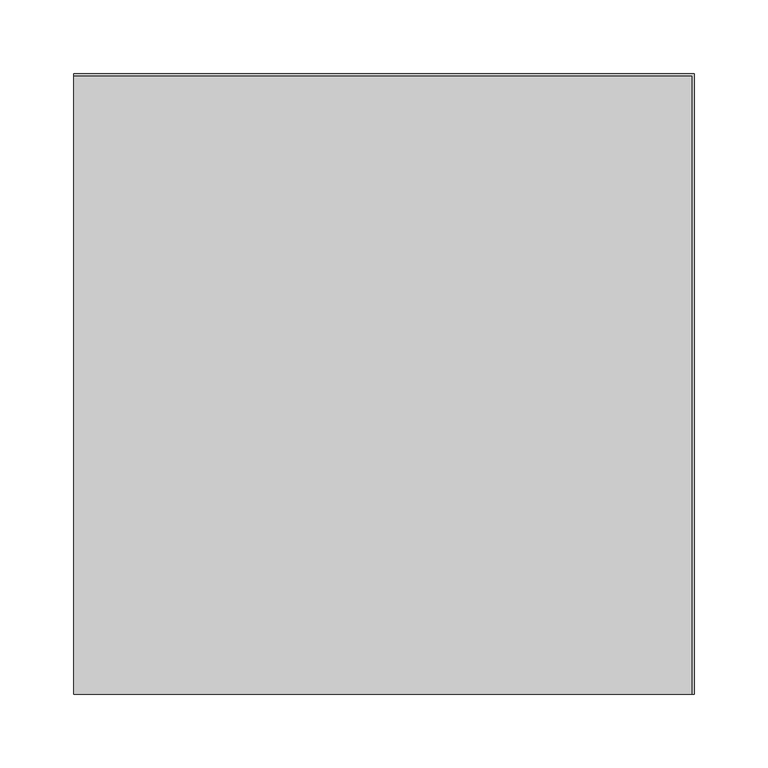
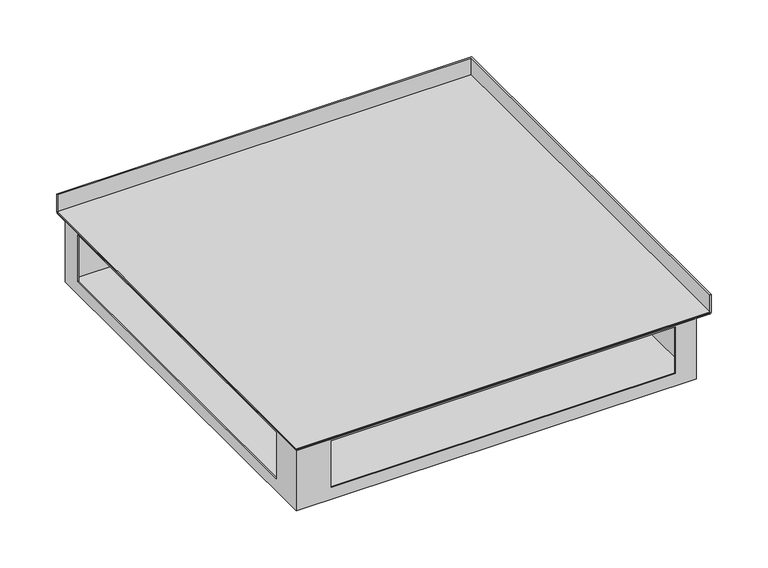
"""IFC4 building model written with IfcOpenShell, lengths in millimetres: proxy geometry, TECHNO_Угловой элемент_KVU : 420_085_90°."""

from ifc_helpers import new_model, si_unit, frame, origin, place, context, project, spatial, polyline, circle_curve, ellipse_curve, outline, extrude, source, transform, mapped, element, save
from ifc_brep_helpers import plane_surface, cylinder_surface, advanced_brep


def mechanical_equipment_69cd810f(model_context):
    return source(origin(), model_context, "Body", "SolidModel", [
        extrude(outline(polyline([(0.0, 208.8), (418.8, 208.8), (418.8, -210.0), (0.0, -210.0), (0.0, 208.8)])), frame((0.0, 0.0, -19.3), z_axis=(0.0, 0.0, 1.0), x_axis=(1.0, 0.0, 0.0)), (0.0, 0.0, 1.0), 1.2),
        advanced_brep(
        [(1.2, 194.0, -83.8), (1.2, -208.8, -83.8), (404.0, -208.8, -83.8), (404.0, 194.0, -83.8), (0.0, 195.2, -85.0), (405.2, 195.2, -85.0), (405.2, -210.0, -85.0), (0.0, -210.0, -85.0), (0.0, 195.2, -20.5), (0.0, -210.0, -20.5), (0.0, 194.0, -20.5), (0.0, 195.2, -19.3), (0.0, 208.8, -19.3), (0.0, 208.8, 0.0), (0.0, 210.0, 0.0), (0.0, 210.0, -19.3), (0.0, 208.8, -20.5), (0.0, -174.5, -22.0), (0.0, -174.5, -72.0), (0.0, 173.9, -72.0), (0.0, 173.9, -22.0), (405.2, -210.0, -20.5), (418.8, -210.0, -20.5), (420.0, -210.0, -19.3), (420.0, -210.0, 0.0), (418.8, -210.0, 0.0), (418.8, -210.0, -19.3), (405.2, -210.0, -19.3), (404.0, -210.0, -20.5), (35.5, -210.0, -72.0), (35.5, -210.0, -22.0), (383.9, -210.0, -22.0), (383.9, -210.0, -72.0), (405.2, 195.2, -20.5), (1.2, 195.2, -19.3), (1.2, -208.8, -19.3), (405.2, -208.8, -19.3), (418.8, 208.8, -19.3), (405.2, -194.0, -19.3), (16.0, -194.0, -19.3), (16.0, 195.2, -19.3), (405.2, 195.2, -19.3), (16.0, -194.0, -20.5), (16.0, 194.0, -20.5), (404.0, -194.0, -20.5), (404.0, -208.8, -20.5), (1.2, -208.8, -20.5), (1.2, 194.0, -20.5), (1.2, -174.5, -72.0), (1.2, -174.5, -22.0), (1.2, 173.9, -22.0), (1.2, 173.9, -72.0), (35.5, -208.8, -22.0), (35.5, -208.8, -72.0), (383.9, -208.8, -72.0), (383.9, -208.8, -22.0), (420.0, 210.0, -19.3), (420.0, 210.0, 0.0), (418.8, 208.8, 0.0), (418.8, 208.8, -20.5), (404.0, 194.0, -20.5)],
        [
            (0, 1),
            (1, 2),
            (2, 3),
            (3, 0),
            (4, 5),
            (5, 6),
            (6, 7),
            (7, 4),
            (8, 4),
            (7, 9),
            (9, 10),
            (10, 11, circle_curve(frame((0.0, 195.2, -20.5), z_axis=(-1.0, 0.0, 0.0), x_axis=(0.0, -1.0, 0.0)), 1.2)),
            (11, 12),
            (12, 13),
            (13, 14),
            (14, 15),
            (15, 16, circle_curve(frame((0.0, 208.8, -19.3), z_axis=(-1.0, 0.0, 0.0), x_axis=(0.0, -1.0, 0.0)), 1.2)),
            (16, 8),
            (17, 18),
            (18, 19),
            (19, 20),
            (20, 17),
            (6, 21),
            (21, 22),
            (22, 23, circle_curve(frame((418.8, -210.0, -19.3), z_axis=(0.0, -1.0, 0.0), x_axis=(-1.0, 0.0, 0.0)), 1.2)),
            (23, 24),
            (24, 25),
            (25, 26),
            (26, 27),
            (27, 28, circle_curve(frame((405.2, -210.0, -20.5), z_axis=(0.0, -1.0, 0.0), x_axis=(-1.0, 0.0, 0.0)), 1.2)),
            (28, 9),
            (29, 30),
            (30, 31),
            (31, 32),
            (32, 29),
            (8, 33),
            (33, 5),
            (33, 21),
            (34, 35),
            (35, 36),
            (36, 27),
            (26, 37),
            (37, 12),
            (11, 34),
            (38, 39),
            (39, 40),
            (40, 41),
            (41, 38),
            (39, 42),
            (42, 43),
            (43, 40, circle_curve(frame((16.0, 195.2, -20.5), z_axis=(-1.0, 0.0, 0.0), x_axis=(0.0, -1.0, 0.0)), 1.2)),
            (38, 44, circle_curve(frame((405.2, -194.0, -20.5), z_axis=(0.0, -1.0, 0.0), x_axis=(-1.0, 0.0, 0.0)), 1.2)),
            (44, 42),
            (44, 45),
            (45, 46),
            (46, 47),
            (47, 43),
            (46, 1),
            (0, 47),
            (48, 49),
            (49, 50),
            (50, 51),
            (51, 48),
            (45, 2),
            (52, 53),
            (53, 54),
            (54, 55),
            (55, 52),
            (34, 10, ellipse_curve(frame((1.2, 195.2, -20.5), z_axis=(0.7071067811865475, -0.7071067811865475, 0.0), x_axis=(0.7071067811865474, 0.7071067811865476, 0.0)), 1.6970563, 1.2)),
            (9, 35, ellipse_curve(frame((1.2, -208.8, -20.5), z_axis=(-0.7071067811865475, 0.7071067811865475, 0.0), x_axis=(0.7071067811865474, 0.7071067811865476, 0.0)), 1.6970563, 1.2)),
            (28, 36, ellipse_curve(frame((405.2, -208.8, -20.5), z_axis=(-0.7071067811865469, 0.7071067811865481, 0.0), x_axis=(-0.7071067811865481, -0.7071067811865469, 0.0)), 1.6970563, 1.2)),
            (23, 56),
            (56, 57),
            (57, 24),
            (57, 14),
            (13, 58),
            (58, 25),
            (58, 37),
            (16, 59),
            (59, 22),
            (59, 56, ellipse_curve(frame((418.8, 208.8, -19.3), z_axis=(0.7071067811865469, -0.7071067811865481, 0.0), x_axis=(-0.7071067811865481, -0.7071067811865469, 0.0)), 1.6970563, 1.2)),
            (56, 15),
            (41, 60, ellipse_curve(frame((405.2, 195.2, -20.5), z_axis=(0.7071067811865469, -0.7071067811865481, 0.0), x_axis=(-0.7071067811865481, -0.7071067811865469, 0.0)), 1.6970563, 1.2)),
            (60, 44),
            (60, 3),
            (43, 60),
            (48, 18),
            (17, 49),
            (51, 19),
            (50, 20),
            (52, 30),
            (29, 53),
            (55, 31),
            (54, 32),
        ],
        [
            plane_surface(frame((0.0, 194.0, -83.8), z_axis=(0.0, 0.0, 1.0), x_axis=(0.0, -1.0, 0.0))),
            plane_surface(frame((0.0, 194.0, -85.0), z_axis=(0.0, 0.0, -1.0), x_axis=(0.0, 1.0, 0.0))),
            plane_surface(frame((0.0, 194.0, -83.8), z_axis=(-1.0, 0.0, 0.0), x_axis=(0.0, 0.0, -1.0))),
            plane_surface(frame((0.0, -210.0, -83.8), z_axis=(0.0, -1.0, 0.0), x_axis=(0.0, 0.0, -1.0))),
            plane_surface(frame((0.0, 195.2, -85.0), z_axis=(0.0, 1.0, 0.0), x_axis=(0.0, 0.0, -1.0))),
            plane_surface(frame((405.2, -210.0, -85.0), z_axis=(1.0, 0.0, 0.0), x_axis=(0.0, 0.0, -1.0))),
            plane_surface(frame((1.2, 195.2, -19.3), z_axis=(0.0, 0.0, 1.0), x_axis=(0.0, -1.0, 0.0))),
            plane_surface(frame((16.0, 195.2, -19.3), z_axis=(1.0, 0.0, 0.0), x_axis=(0.0, -1.0, 0.0))),
            plane_surface(frame((16.0, -194.0, -19.3), z_axis=(0.0, 1.0, 0.0), x_axis=(1.0, 0.0, 0.0))),
            plane_surface(frame((16.0, 195.2, -20.5), z_axis=(0.0, 0.0, -1.0), x_axis=(0.0, -1.0, 0.0))),
            plane_surface(frame((1.2, 195.2, -20.5), z_axis=(1.0, 0.0, 0.0), x_axis=(0.0, -1.0, 0.0))),
            plane_surface(frame((1.2, -208.8, -20.5), z_axis=(0.0, 1.0, 0.0), x_axis=(1.0, 0.0, 0.0))),
            cylinder_surface(frame((1.2, 195.2, -20.5), z_axis=(0.0, 1.0, 0.0), x_axis=(-1.0, 0.0, 0.0)), 1.2),
            cylinder_surface(frame((0.0, -208.8, -20.5), z_axis=(-1.0, 0.0, 0.0), x_axis=(0.0, -1.0, 0.0)), 1.2),
            plane_surface(frame((420.0, -210.0, -19.3), z_axis=(1.0, 0.0, 0.0), x_axis=(0.0, 1.0, 0.0))),
            plane_surface(frame((420.0, -210.0, 0.0), z_axis=(0.0, 0.0, 1.0), x_axis=(0.0, 1.0, 0.0))),
            plane_surface(frame((418.8, -210.0, 0.0), z_axis=(-1.0, 0.0, 0.0), x_axis=(0.0, 1.0, 0.0))),
            plane_surface(frame((405.2, -210.0, -20.5), z_axis=(0.0, 0.0, -1.0), x_axis=(0.0, 1.0, 0.0))),
            cylinder_surface(frame((418.8, -210.0, -19.3), z_axis=(0.0, -1.0, 0.0), x_axis=(-1.0, 0.0, 0.0)), 1.2),
            plane_surface(frame((420.0, 210.0, -19.3), z_axis=(0.0, 1.0, 0.0), x_axis=(-1.0, 0.0, 0.0))),
            plane_surface(frame((418.8, 208.8, 0.0), z_axis=(0.0, -1.0, 0.0), x_axis=(-1.0, 0.0, 0.0))),
            cylinder_surface(frame((210.0, 208.8, -19.3), z_axis=(1.0, 0.0, 0.0), x_axis=(0.0, -1.0, 0.0)), 1.2),
            cylinder_surface(frame((405.2, -210.0, -20.5), z_axis=(0.0, -1.0, 0.0), x_axis=(-1.0, 0.0, 0.0)), 1.2),
            plane_surface(frame((404.0, -210.0, -20.5), z_axis=(-1.0, 0.0, 0.0), x_axis=(0.0, 1.0, 0.0))),
            cylinder_surface(frame((210.0, 195.2, -20.5), z_axis=(1.0, 0.0, 0.0), x_axis=(0.0, -1.0, 0.0)), 1.2),
            plane_surface(frame((404.0, 194.0, -20.5), z_axis=(0.0, -1.0, 0.0), x_axis=(-1.0, 0.0, 0.0))),
            plane_surface(frame((1.2, -174.5, -22.0), z_axis=(0.0, 1.0, 0.0), x_axis=(-1.0, 0.0, 0.0))),
            plane_surface(frame((1.2, -174.5, -72.0), z_axis=(0.0, 0.0, 1.0), x_axis=(-1.0, 0.0, 0.0))),
            plane_surface(frame((1.2, 173.9, -72.0), z_axis=(0.0, -1.0, 0.0), x_axis=(-1.0, 0.0, 0.0))),
            plane_surface(frame((1.2, 173.9, -22.0), z_axis=(0.0, 0.0, -1.0), x_axis=(-1.0, 0.0, 0.0))),
            plane_surface(frame((35.5, -208.8, -72.0), z_axis=(1.0, 0.0, 0.0), x_axis=(0.0, -1.0, 0.0))),
            plane_surface(frame((35.5, -208.8, -22.0), z_axis=(0.0, 0.0, -1.0), x_axis=(0.0, -1.0, 0.0))),
            plane_surface(frame((383.9, -208.8, -22.0), z_axis=(-1.0, 0.0, 0.0), x_axis=(0.0, -1.0, 0.0))),
            plane_surface(frame((383.9, -208.8, -72.0), z_axis=(0.0, 0.0, 1.0), x_axis=(0.0, -1.0, 0.0))),
        ],
        [
            (0, [[1, 2, 3, 4]]),
            (1, [[5, 6, 7, 8]]),
            (2, [[9, -8, 10, 11, 12, 13, 14, 15, 16, 17, 18], [19, 20, 21, 22]]),
            (3, [[23, 24, 25, 26, 27, 28, 29, 30, 31, -10, -7], [32, 33, 34, 35]]),
            (4, [[-9, 36, 37, -5]]),
            (5, [[-23, -6, -37, 38]]),
            (6, [[39, 40, 41, -29, 42, 43, -13, 44], [45, 46, 47, 48]]),
            (7, [[-46, 49, 50, 51]]),
            (8, [[-45, 52, 53, -49]]),
            (9, [[-50, -53, 54, 55, 56, 57]]),
            (10, [[58, -1, 59, -56], [60, 61, 62, 63]]),
            (11, [[-58, -55, 64, -2], [65, 66, 67, 68]]),
            (12, [[-39, 69, -11, 70]]),
            (13, [[-40, -70, -31, 71]]),
            (14, [[-26, 72, 73, 74]]),
            (15, [[-27, -74, 75, -15, 76, 77]]),
            (16, [[-28, -77, 78, -42]]),
            (17, [[-24, -38, -36, -18, 79, 80]]),
            (18, [[-25, -80, 81, -72]]),
            (19, [[-73, 82, -16, -75]]),
            (20, [[-76, -14, -43, -78]]),
            (21, [[-79, -17, -82, -81]]),
            (22, [[-30, -41, -71]]),
            (22, [[83, 84, -52, -48]]),
            (23, [[85, -3, -64, -54, -84]]),
            (24, [[-12, -69, -44]]),
            (24, [[-83, -47, -51, 86]]),
            (25, [[-85, -86, -57, -59, -4]]),
            (26, [[87, -19, 88, -60]]),
            (27, [[-87, -63, 89, -20]]),
            (28, [[-89, -62, 90, -21]]),
            (29, [[-88, -22, -90, -61]]),
            (30, [[91, -32, 92, -65]]),
            (31, [[-91, -68, 93, -33]]),
            (32, [[-93, -67, 94, -34]]),
            (33, [[-92, -35, -94, -66]]),
        ],
    ),
    ])


if __name__ == "__main__":
    model = new_model("IFC4")
    model_context = context("Model", 3, world=origin())
    ifc_project = project(units=[si_unit("LENGTHUNIT", "METRE", prefix="MILLI")], contexts=[model_context])
    site = spatial("IfcSite", under=ifc_project)
    building = spatial("IfcBuilding", under=site)
    placement = place(None, origin())
    mechanical_equipment_shape = mechanical_equipment_69cd810f(model_context)
    element("IfcBuildingElementProxy", 1, Name="TECHNO_Угловой элемент_KVU : 420_085_90°", ObjectType="TECHNO_Угловой элемент_KVU : 420_085_90°", at=placement, inside=building, context=model_context, shape_type="MappedRepresentation", body=[
        mapped(mechanical_equipment_shape, transform((0.0, 0.0, 0.0), x_axis=(1.0, 0.0, 0.0), y_axis=(0.0, 1.0, 0.0), z_axis=(0.0, 0.0, 1.0))),
    ])
    save(model, "model.ifc")
